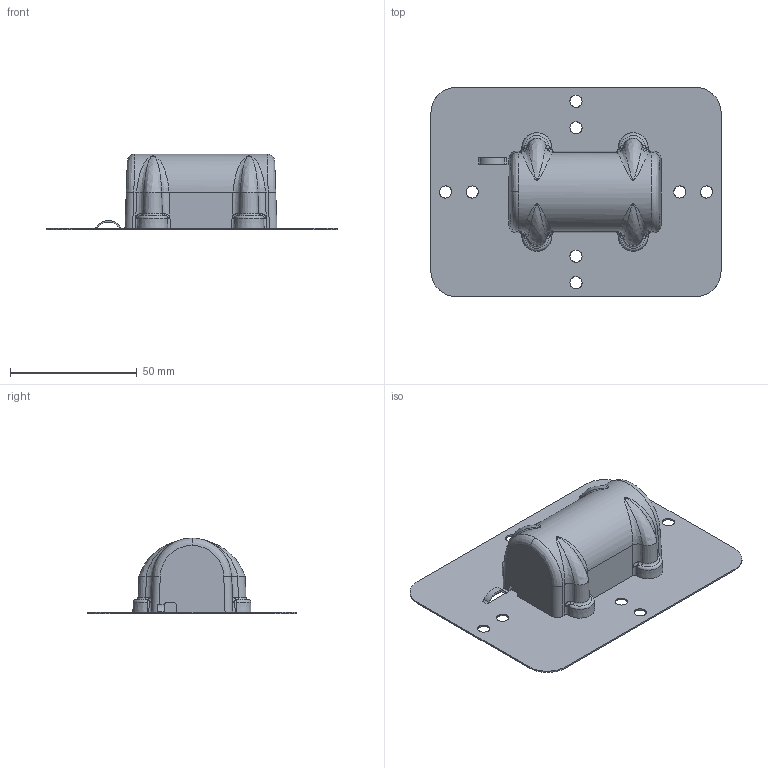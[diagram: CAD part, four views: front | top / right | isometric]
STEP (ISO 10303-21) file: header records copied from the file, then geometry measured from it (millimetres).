
FILE_DESCRIPTION (( 'STEP AP203' ), '1' );
FILE_NAME ('3D_TMM2.STEP', '2017-07-07T06:08:31', ( '' ), ( '' ), 'SwSTEP 2.0', 'SolidWorks 2015', '' );
FILE_SCHEMA (( 'CONFIG_CONTROL_DESIGN' ));
Length unit declared in the file: millimetre
Products named in the file (1): 3D_TMM2
Bounding box: 114.5 x 82.5 x 29.9 mm (x, y, z)
Surface area: 23762.9 mm2 (no closed solid volume)
Topology: 0 solids, 8 shells, 338 faces, 788 edges, 461 vertices
Faces by surface type: plane 162, cylinder 84, bspline 43, torus 32, cone 17
Entity records: 21696 total; most frequent: CARTESIAN_POINT 14538, ORIENTED_EDGE 1536, DIRECTION 1275, EDGE_CURVE 788, VERTEX_POINT 461, AXIS2_PLACEMENT_3D 459, EDGE_LOOP 367, VECTOR 357
